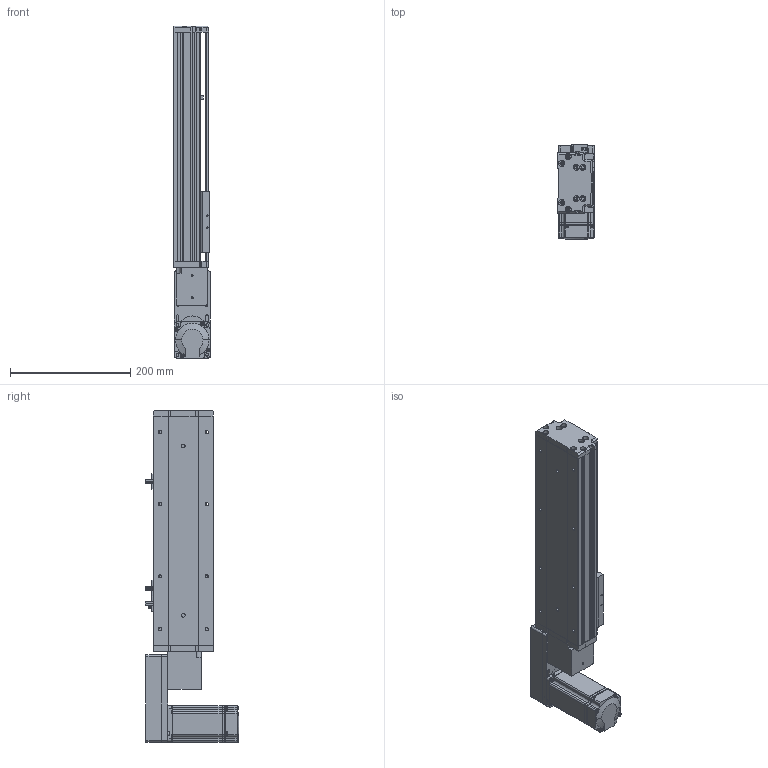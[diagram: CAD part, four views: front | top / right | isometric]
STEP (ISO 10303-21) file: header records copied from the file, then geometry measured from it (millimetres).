
FILE_DESCRIPTION (( 'STEP AP214' ), '1' );
FILE_NAME ('KSD100B-S200-MLB-CM.STEP', '2019-08-31T01:28:52', ( '微软用户' ), ( '微软中国' ), 'SwSTEP 2.0', 'SolidWorks 2014', '' );
FILE_SCHEMA (( 'AUTOMOTIVE_DESIGN' ));
Length unit declared in the file: millimetre
Products named in the file (12): 100宽马达安装板连板上下折丝杆同步带; U倰嫖萇EEㄜSX672; 覜茼え100遵圉猾敕; 100宽防尘板200行程-同步带; 100宽马达安装板同步带左; 100宽同步带安装板半封闭; 100宽马达安装板同步带; 100遵傷啣肮祭湍; 100宽底板半封闭同步带200行程; KSD100B-S200-MLB-CM; MHMD042G1CA_2_03; 悵誘欶奻狟殏
Assembly tree (13 placements, depth 2):
  KSD100B-S200-MLB-CM
    100宽底板半封闭同步带200行程
    100遵傷啣肮祭湍
    100宽马达安装板同步带
    100宽同步带安装板半封闭
    100宽马达安装板同步带左
    100宽防尘板200行程-同步带
    覜茼え100遵圉猾敕
    U倰嫖萇EEㄜSX672  x3
    100宽马达安装板连板上下折丝杆同步带
    悵誘欶奻狟殏
    MHMD042G1CA_2_03
Bounding box: 61 x 156.2 x 553 mm (x, y, z)
Volume: 1044774 mm3; surface area: 445158.7 mm2
Topology: 12 solids, 13 shells, 1529 faces, 4325 edges, 2820 vertices
Faces by surface type: plane 704, cylinder 695, cone 112, bspline 18
Entity records: 55962 total; most frequent: CARTESIAN_POINT 9666, DIRECTION 7648, ORIENTED_EDGE 7230, EDGE_CURVE 3687, AXIS2_PLACEMENT_3D 2738, VERTEX_POINT 2444, VECTOR 2172, LINE 2172
